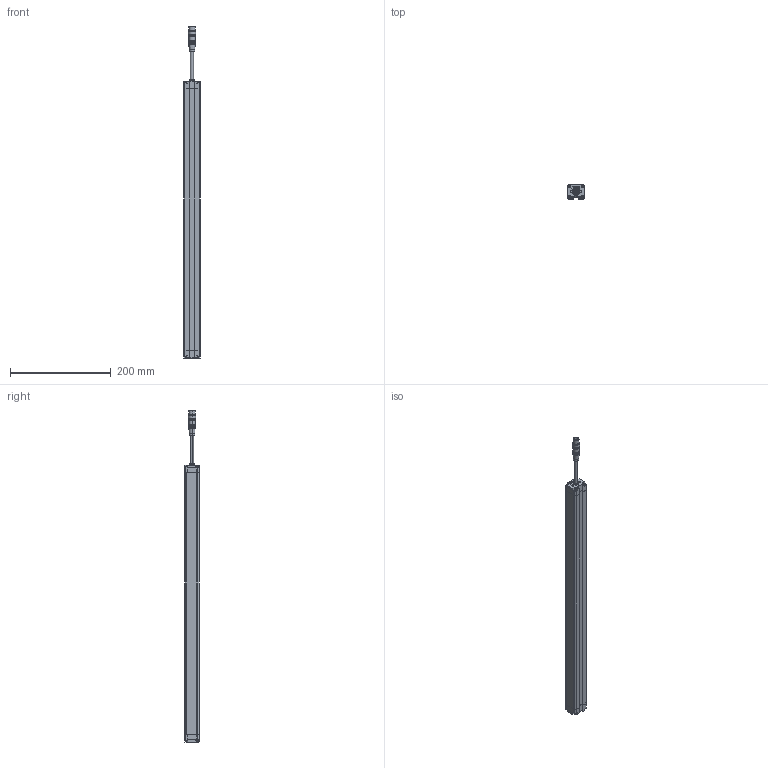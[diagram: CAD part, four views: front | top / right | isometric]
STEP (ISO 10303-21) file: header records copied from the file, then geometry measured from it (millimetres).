
FILE_DESCRIPTION((''),'2;1');
FILE_NAME('SMT1-CGQ_ASM','2025-08-08T08:26:23',('Administrator'),(''),'CREO PARAMETRIC BY PTC INC, 2016510','CREO PARAMETRIC BY PTC INC, 2016510','');
FILE_SCHEMA(('CONFIG_CONTROL_DESIGN'));
Length unit declared in the file: millimetre
Products named in the file (7): SMT1-XINGCAI-V1; SMT1-SDG-V1; SMT1-XDG-V1; M12-CHATOU; ST3X18; CT4-LVGUANGBAN; SMT1-CGQ_ASM
Assembly tree (13 placements, depth 2):
  SMT1-CGQ_ASM
    SMT1-XINGCAI-V1
    SMT1-SDG-V1
    SMT1-XDG-V1
    M12-CHATOU
    ST3X18  x8
    CT4-LVGUANGBAN
Bounding box: 33 x 28.02 x 659.5 mm (x, y, z)
Volume: 430222 mm3; surface area: 141970.2 mm2
Topology: 13 solids, 13 shells, 712 faces, 1868 edges, 1200 vertices
Faces by surface type: plane 382, cylinder 184, extrusion 86, sphere 32, cone 20, bspline 8
Entity records: 18128 total; most frequent: CARTESIAN_POINT 4347, ORIENTED_EDGE 2916, DIRECTION 2580, EDGE_CURVE 1458, VECTOR 1036, VERTEX_POINT 955, LINE 950, AXIS2_PLACEMENT_3D 772
